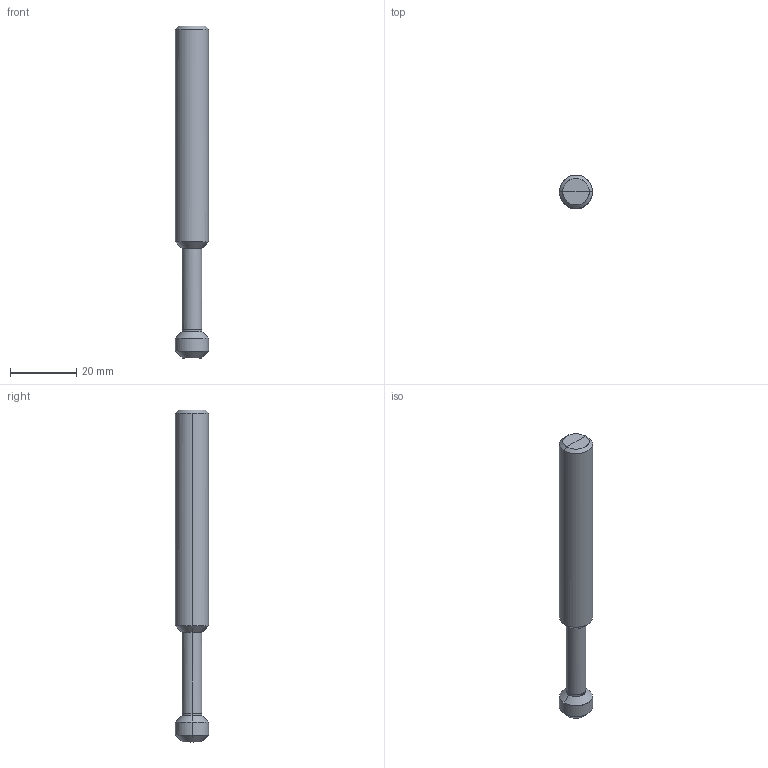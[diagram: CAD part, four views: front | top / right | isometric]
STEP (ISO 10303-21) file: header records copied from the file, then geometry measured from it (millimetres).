
FILE_DESCRIPTION(/* description */ (''),/* implementation_level */ '2;1');
FILE_NAME(/*name*/ '4111-10F-90',/*time_stamp*/'2021-5-17T8:43:44',/*author*/ ('ISBE GmbH'),/*organization*/ ('ISBE GmbH'),/*preprocessor_version*/ 'STEP IO v1.0',/*originating_system*/ '',/*authorisation*/ '');
FILE_SCHEMA (('AUTOMOTIVE_DESIGN'));
Length unit declared in the file: millimetre
Products named in the file (1): Document
Bounding box: 10 x 10 x 100 mm (x, y, z)
Surface area: 3000.1 mm2 (no closed solid volume)
Topology: 0 solids, 26 shells, 26 faces, 108 edges, 104 vertices
Faces by surface type: bspline 26
Entity records: 1167 total; most frequent: CARTESIAN_POINT 714, VERTEX_POINT 96, EDGE_CURVE 96, ORIENTED_EDGE 96, EDGE_LOOP 26, FACE_OUTER_BOUND 26, ADVANCED_FACE 26, DIRECTION 16
